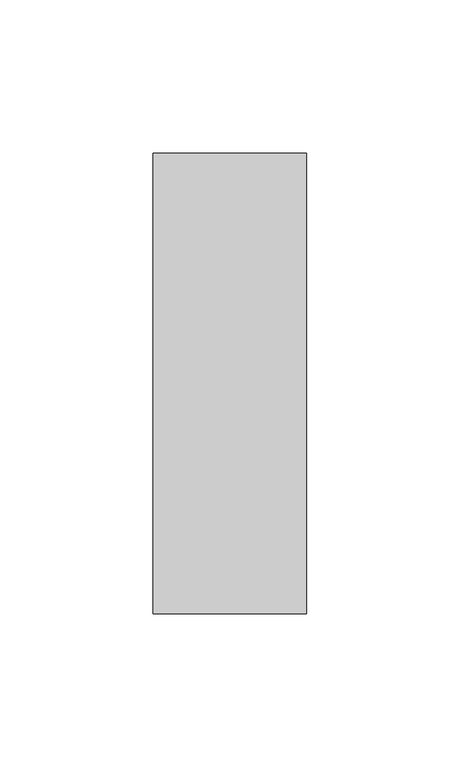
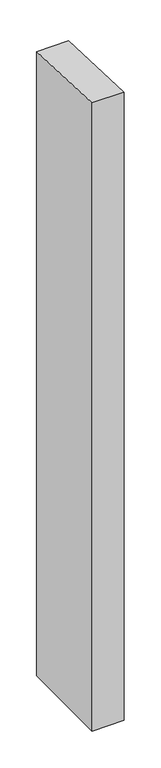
"""IFC4 building model written with IfcOpenShell, lengths in millimetres: member geometry, Прямоугольный импост : 50 x 150 мм."""

from ifc_helpers import new_model, si_unit, origin, place, context, project, spatial, faceted_brep, source, transform, mapped, element, save


def member_0a4d37b4(model_context):
    return source(origin(), model_context, "Body", "Brep", [
        faceted_brep([(25.0, 75.0, -1034.0052636), (25.0, -75.0, -1034.0052636), (-25.0, -75.0, -1034.0052636), (-25.0, 75.0, -1034.0052636), (-25.0, 75.0, -3.3693371), (25.0, 75.0, -3.1045435), (-25.0, -75.0, 3.1045435), (25.0, -75.0, 3.3693371)], [[[0, 1, 2, 3]], [[4, 5, 0, 3]], [[6, 4, 3, 2]], [[7, 6, 2, 1]], [[5, 7, 1, 0]], [[5, 4, 6, 7]]]),
    ])


if __name__ == "__main__":
    model = new_model("IFC4")
    model_context = context("Model", 3, world=origin())
    ifc_project = project(units=[si_unit("LENGTHUNIT", "METRE", prefix="MILLI")], contexts=[model_context])
    site = spatial("IfcSite", under=ifc_project)
    building = spatial("IfcBuilding", under=site)
    placement = place(None, origin())
    member_shape = member_0a4d37b4(model_context)
    element("IfcMember", 1, ObjectType="Прямоугольный импост : 50 x 150 мм", at=placement, inside=building, context=model_context, shape_type="MappedRepresentation", body=[
        mapped(member_shape, transform((0.0, 0.0, 0.0), x_axis=(1.0, 0.0, 0.0), y_axis=(0.0, 1.0, 0.0), z_axis=(0.0, 0.0, 1.0))),
    ])
    save(model, "model.ifc")
